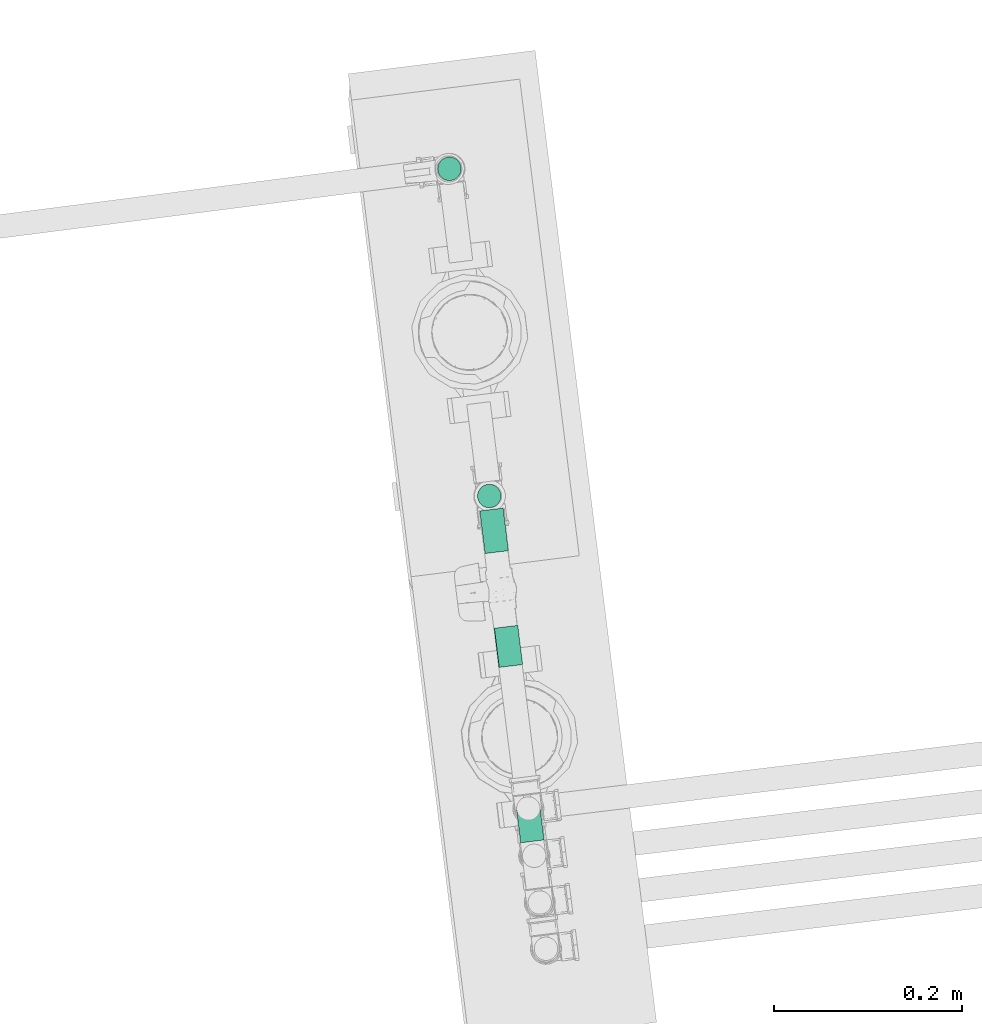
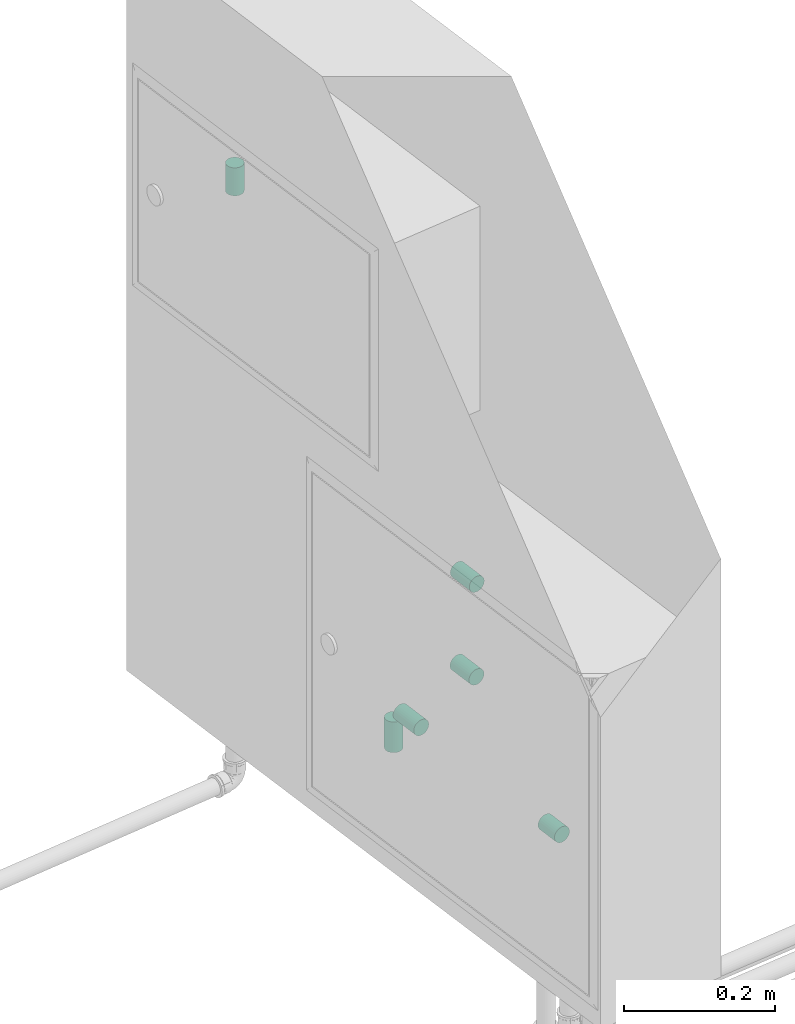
# One storey, part 83 of 97: 6 flow segments.
"""IFC2X3 building model written with IfcOpenShell, lengths in centimetres."""

from ifc_helpers import new_model, entity, si_unit, converted_unit, derived_unit, direction, frame, frame_2d, origin, origin_2d_with_axis, place, context, subcontext, project, spatial, circle, extrude, type_object, element, save


model = new_model("IFC2X3")

# Units and contexts
model_context = context("Model", 3, precision=0.001, world=origin(), true_north=direction((6.12303176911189e-17, 1.0)))
body_context = subcontext(model_context, "Body", "Model", "MODEL_VIEW")
ifc_project = project(units=[si_unit("LENGTHUNIT", "METRE", prefix="CENTI"), si_unit("AREAUNIT", "SQUARE_METRE"), si_unit("VOLUMEUNIT", "CUBIC_METRE"), converted_unit("PLANEANGLEUNIT", "DEGREE", entity("IfcRatioMeasure", 0.0174532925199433), si_unit("PLANEANGLEUNIT", "RADIAN"), dimensions=[0, 0, 0, 0, 0, 0, 0]), si_unit("MASSUNIT", "GRAM", prefix="KILO"), derived_unit("MASSDENSITYUNIT", [(si_unit("MASSUNIT", "GRAM", prefix="KILO"), 1), (si_unit("LENGTHUNIT", "METRE"), -3)]), derived_unit("MOMENTOFINERTIAUNIT", [(si_unit("LENGTHUNIT", "METRE"), 4)]), si_unit("TIMEUNIT", "SECOND"), si_unit("FREQUENCYUNIT", "HERTZ"), si_unit("THERMODYNAMICTEMPERATUREUNIT", "DEGREE_CELSIUS"), derived_unit("THERMALTRANSMITTANCEUNIT", [(si_unit("MASSUNIT", "GRAM", prefix="KILO"), 1), (si_unit("THERMODYNAMICTEMPERATUREUNIT", "KELVIN"), -1), (si_unit("TIMEUNIT", "SECOND"), -3)]), derived_unit("VOLUMETRICFLOWRATEUNIT", [(si_unit("LENGTHUNIT", "METRE"), 3), (si_unit("TIMEUNIT", "SECOND"), -1)]), si_unit("ELECTRICCURRENTUNIT", "AMPERE"), si_unit("ELECTRICVOLTAGEUNIT", "VOLT"), si_unit("POWERUNIT", "WATT"), si_unit("FORCEUNIT", "NEWTON", prefix="KILO"), si_unit("ILLUMINANCEUNIT", "LUX"), si_unit("LUMINOUSFLUXUNIT", "LUMEN"), si_unit("LUMINOUSINTENSITYUNIT", "CANDELA"), derived_unit("USERDEFINED", [(si_unit("MASSUNIT", "GRAM", prefix="KILO"), -1), (si_unit("LENGTHUNIT", "METRE"), -2), (si_unit("TIMEUNIT", "SECOND"), 3), (si_unit("LUMINOUSFLUXUNIT", "LUMEN"), 1)]), derived_unit("LINEARVELOCITYUNIT", [(si_unit("LENGTHUNIT", "METRE"), 1), (si_unit("TIMEUNIT", "SECOND"), -1)]), si_unit("PRESSUREUNIT", "PASCAL"), derived_unit("USERDEFINED", [(si_unit("LENGTHUNIT", "METRE"), -2), (si_unit("MASSUNIT", "GRAM", prefix="KILO"), 1), (si_unit("TIMEUNIT", "SECOND"), -2)]), derived_unit("LINEARFORCEUNIT", [(si_unit("MASSUNIT", "GRAM", prefix="KILO"), 1), (si_unit("LENGTHUNIT", "METRE"), 1), (si_unit("TIMEUNIT", "SECOND"), -2), (si_unit("LENGTHUNIT", "METRE"), -1)]), derived_unit("PLANARFORCEUNIT", [(si_unit("MASSUNIT", "GRAM", prefix="KILO"), 1), (si_unit("LENGTHUNIT", "METRE"), 1), (si_unit("TIMEUNIT", "SECOND"), -2), (si_unit("LENGTHUNIT", "METRE"), -2)])], contexts=[model_context])

# Site, building, storey
site_placement = place(None, origin())
site = spatial("IfcSite", under=ifc_project, at=site_placement, Name="Default", CompositionType="ELEMENT")
building_placement = place(site_placement, origin())
building = spatial("IfcBuilding", under=site, at=building_placement, Name="HIDROSSANITÁRIO", CompositionType="ELEMENT")
storey_placement = place(building_placement, frame((0.0, 0.0, -260.0)))
storey = spatial("IfcBuildingStorey", under=building, at=storey_placement, Name="TÉRREO-HID", CompositionType="ELEMENT", Elevation=-260.0)

# Flow segments
pipe_segment_type = type_object("IfcPipeSegmentType", Name="Tipos de tubos:Tubo Marrom - Água Fria - Soldável", PredefinedType="NOTDEFINED")
flow_segment_1_placement = place(storey_placement, origin())
element("IfcFlowSegment", 1, at=flow_segment_1_placement, inside=storey, type_object=pipe_segment_type, Name="Tipos de tubos:Tubo Marrom - Água Fria - Soldável", ObjectType="Tipos de tubos:Tubo Marrom - Água Fria - Soldável", context=body_context, shape_type="SweptSolid", body=[
    extrude(circle(Radius=1.25, at=frame_2d((3.58290678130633e-37, -4.33146851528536e-13), x_axis=(1.0, 0.0))), frame((-2442.17322348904, 3256.34183437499, 9.48467692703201), z_axis=(0.000241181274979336, 2.96831646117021e-05, 0.999999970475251), x_axis=(0.999999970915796, 0.0, -0.000241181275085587)), (0.0, 0.0, 1.0), 4.96000014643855),
])
flow_segment_2_placement = place(storey_placement, origin())
element("IfcFlowSegment", 2, at=flow_segment_2_placement, inside=storey, type_object=pipe_segment_type, Name="Tipos de tubos:Tubo Marrom - Água Fria - Soldável", ObjectType="Tipos de tubos:Tubo Marrom - Água Fria - Soldável", context=body_context, shape_type="SweptSolid", body=[
    extrude(circle(Radius=1.25, at=frame_2d((0.0, -4.33146851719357e-13), x_axis=(1.0, 0.0))), frame((-2446.40153316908, 3291.08567217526, 79.9390000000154)), (0.0, 0.0, 1.0), 4.52099999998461),
])
flow_segment_3_placement = place(storey_placement, origin())
element("IfcFlowSegment", 3, at=flow_segment_3_placement, inside=storey, type_object=pipe_segment_type, Name="Tipos de tubos:Tubo Marrom - Água Fria - Soldável", ObjectType="Tipos de tubos:Tubo Marrom - Água Fria - Soldável", context=body_context, shape_type="SweptSolid", body=[
    extrude(circle(Radius=1.25, at=origin_2d_with_axis()), frame((-2440.38735370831, 3242.45484117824, 46.0346769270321), z_axis=(0.122152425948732, -0.992511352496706, 0.0), x_axis=(0.992511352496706, 0.122152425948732, 0.0)), (0.0, 0.0, 1.0), 4.18929019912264),
])
flow_segment_4_placement = place(storey_placement, origin())
element("IfcFlowSegment", 4, at=flow_segment_4_placement, inside=storey, type_object=pipe_segment_type, Name="Tipos de tubos:Tubo Marrom - Água Fria - Soldável", ObjectType="Tipos de tubos:Tubo Marrom - Água Fria - Soldável", context=body_context, shape_type="SweptSolid", body=[
    extrude(circle(Radius=1.25, at=origin_2d_with_axis()), frame((-2440.43600779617, 3242.4489559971, 31.0346769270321), z_axis=(0.122152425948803, -0.992511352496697, 0.0), x_axis=(0.992511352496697, 0.122152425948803, 0.0)), (0.0, 0.0, 1.0), 4.18939230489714),
])
flow_segment_5_placement = place(storey_placement, origin())
element("IfcFlowSegment", 5, at=flow_segment_5_placement, inside=storey, type_object=pipe_segment_type, Name="Tipos de tubos:Tubo Marrom - Água Fria - Soldável", ObjectType="Tipos de tubos:Tubo Marrom - Água Fria - Soldável", context=body_context, shape_type="SweptSolid", body=[
    extrude(circle(Radius=1.25, at=origin_2d_with_axis()), frame((-2441.38312731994, 3250.38660318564, 16.0346769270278), z_axis=(-0.122152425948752, 0.992511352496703, 0.0), x_axis=(-0.992511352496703, -0.122152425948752, 0.0)), (0.0, 0.0, 1.0), 4.5571604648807),
])
flow_segment_6_placement = place(storey_placement, origin())
element("IfcFlowSegment", 6, at=flow_segment_6_placement, inside=storey, type_object=pipe_segment_type, Name="Tipos de tubos:Tubo Marrom - Água Fria - Soldável", ObjectType="Tipos de tubos:Tubo Marrom - Água Fria - Soldável", context=body_context, shape_type="SweptSolid", body=[
    extrude(circle(Radius=1.25, at=frame_2d((0.0, -5.41433564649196e-14), x_axis=(1.0, 0.0))), frame((-2437.59582637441, 3219.67009649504, 16.0346769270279), z_axis=(-0.124024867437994, 0.992279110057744, 0.0), x_axis=(-0.992279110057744, -0.124024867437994, 0.0)), (0.0, 0.0, 1.0), 3.62699642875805),
])

save(model, "model.ifc")
